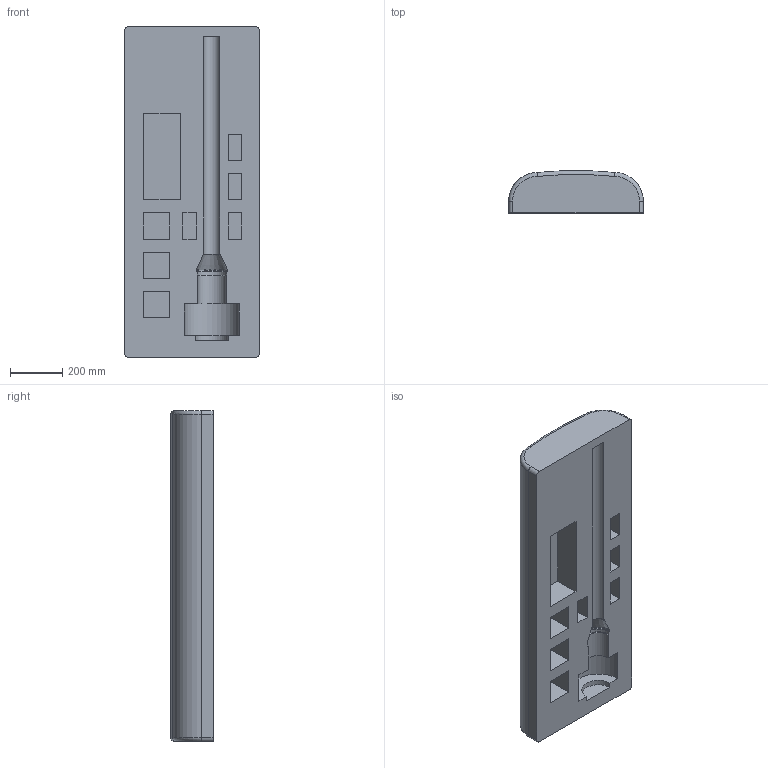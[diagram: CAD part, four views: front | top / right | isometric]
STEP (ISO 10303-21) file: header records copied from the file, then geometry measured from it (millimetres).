
FILE_DESCRIPTION(/* description */ ('VariCAD 2010-2.03 AP-203'),/* implementation_level */ '2;1');
FILE_NAME(/* name */ '0353-62-032',/* time_stamp */ '2010-07-25T14:56:17-06:00',/* author */ (''),/* organization */ (''),/* preprocessor_version */ 'ST-DEVELOPER v12',/* originating_system */ 'VariCAD 2010-2.03; kernel version (20100102)',/* authorisation */ '');
FILE_SCHEMA (('CONFIG_CONTROL_DESIGN'));
Length unit declared in the file: millimetre
Products named in the file (1): Part
Bounding box: 515 x 161.11 x 1265 mm (x, y, z)
Volume: 81818578.3 mm3; surface area: 2138636.6 mm2
Topology: 1 solids, 1 shells, 75 faces, 184 edges, 120 vertices
Faces by surface type: plane 51, cylinder 15, torus 6, cone 3
Entity records: 2304 total; most frequent: CARTESIAN_POINT 457, DIRECTION 370, ORIENTED_EDGE 368, EDGE_CURVE 184, LINE 144, VECTOR 144, VERTEX_POINT 120, AXIS2_PLACEMENT_3D 113
